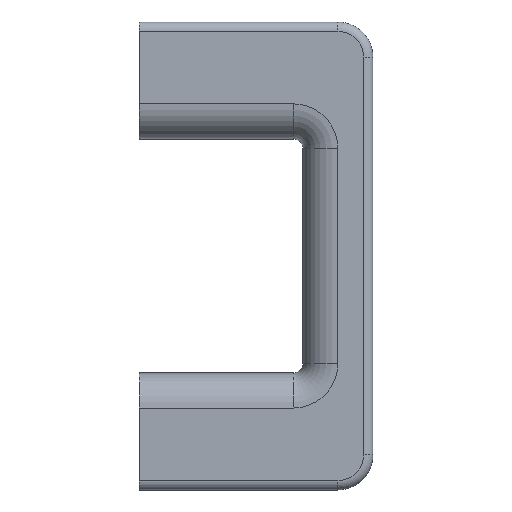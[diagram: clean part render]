
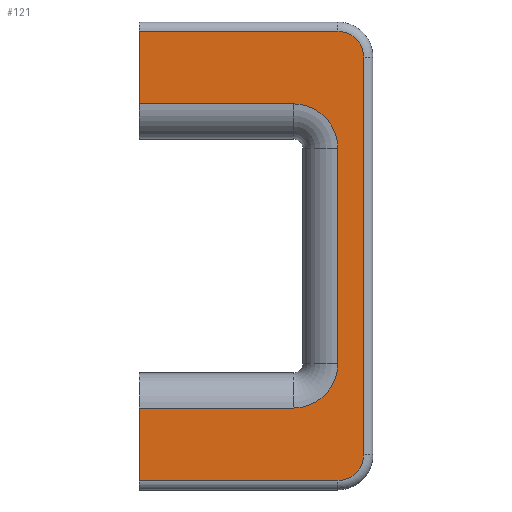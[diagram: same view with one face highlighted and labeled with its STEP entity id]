
A CAD part, top view. The second image highlights one B-rep face of the part: STEP entity #121.
In plain terms, the highlighted planar face has unit normal (0, 0, 1).
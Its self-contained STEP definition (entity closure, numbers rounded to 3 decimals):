
#121=ADVANCED_FACE('',(#500),#502,.T.);
#500=FACE_BOUND('',#501,.T.);
#501=EDGE_LOOP('',(#818,#819,#820,#821,#822,#823,#824,#825,#826,#827,#828,#829));
#502=PLANE('',#503);
#503=AXIS2_PLACEMENT_3D('',#504,#505,#506);
#504=CARTESIAN_POINT('',(0.,0.,6.));
#505=DIRECTION('',(0.,0.,1.));
#506=DIRECTION('',(1.,0.,0.));
#818=ORIENTED_EDGE('',*,*,#994,.T.);
#819=ORIENTED_EDGE('',*,*,#995,.F.);
#820=ORIENTED_EDGE('',*,*,#996,.T.);
#821=ORIENTED_EDGE('',*,*,#997,.F.);
#822=ORIENTED_EDGE('',*,*,#998,.T.);
#823=ORIENTED_EDGE('',*,*,#999,.T.);
#824=ORIENTED_EDGE('',*,*,#1000,.T.);
#825=ORIENTED_EDGE('',*,*,#1001,.F.);
#826=ORIENTED_EDGE('',*,*,#1002,.T.);
#827=ORIENTED_EDGE('',*,*,#1003,.F.);
#828=ORIENTED_EDGE('',*,*,#1004,.T.);
#829=ORIENTED_EDGE('',*,*,#1005,.T.);
#994=EDGE_CURVE('',#1118,#1119,#1120,.T.);
#995=EDGE_CURVE('',#1121,#1119,#1122,.F.);
#996=EDGE_CURVE('',#1121,#1123,#1124,.T.);
#997=EDGE_CURVE('',#1125,#1123,#1126,.F.);
#998=EDGE_CURVE('',#1125,#1127,#1128,.T.);
#999=EDGE_CURVE('',#1127,#1129,#1130,.T.);
#1000=EDGE_CURVE('',#1129,#1131,#1132,.T.);
#1001=EDGE_CURVE('',#1133,#1131,#1134,.F.);
#1002=EDGE_CURVE('',#1133,#1135,#1136,.T.);
#1003=EDGE_CURVE('',#1137,#1135,#1138,.F.);
#1004=EDGE_CURVE('',#1137,#1139,#1140,.T.);
#1005=EDGE_CURVE('',#1139,#1118,#1141,.T.);
#1118=VERTEX_POINT('',#1356);
#1119=VERTEX_POINT('',#1357);
#1120=LINE('',#1358,#1359);
#1121=VERTEX_POINT('',#1361);
#1122=CIRCLE('',#1362,7.6);
#1123=VERTEX_POINT('',#1366);
#1124=LINE('',#1367,#1368);
#1125=VERTEX_POINT('',#1370);
#1126=CIRCLE('',#1371,7.6);
#1127=VERTEX_POINT('',#1375);
#1128=LINE('',#1376,#1377);
#1129=VERTEX_POINT('',#1379);
#1130=LINE('',#1380,#1381);
#1131=VERTEX_POINT('',#1383);
#1132=LINE('',#1384,#1385);
#1133=VERTEX_POINT('',#1387);
#1134=CIRCLE('',#1388,4.4);
#1135=VERTEX_POINT('',#1392);
#1136=LINE('',#1393,#1394);
#1137=VERTEX_POINT('',#1396);
#1138=CIRCLE('',#1397,4.4);
#1139=VERTEX_POINT('',#1401);
#1140=LINE('',#1402,#1403);
#1141=LINE('',#1405,#1406);
#1356=CARTESIAN_POINT('',(-40.,26.,6.));
#1357=CARTESIAN_POINT('',(-13.6,26.,6.));
#1358=CARTESIAN_POINT('',(-40.,26.,6.));
#1359=VECTOR('',#1360,1.);
#1360=DIRECTION('',(1.,0.,0.));
#1361=CARTESIAN_POINT('',(-6.,18.4,6.));
#1362=AXIS2_PLACEMENT_3D('',#1363,#1364,#1365);
#1363=CARTESIAN_POINT('',(-13.6,18.4,6.));
#1364=DIRECTION('',(0.,0.,-1.));
#1365=DIRECTION('',(0.,1.,0.));
#1366=CARTESIAN_POINT('',(-6.,-18.4,6.));
#1367=CARTESIAN_POINT('',(-6.,18.4,6.));
#1368=VECTOR('',#1369,1.);
#1369=DIRECTION('',(0.,-1.,0.));
#1370=CARTESIAN_POINT('',(-13.6,-26.,6.));
#1371=AXIS2_PLACEMENT_3D('',#1372,#1373,#1374);
#1372=CARTESIAN_POINT('',(-13.6,-18.4,6.));
#1373=DIRECTION('',(0.,0.,-1.));
#1374=DIRECTION('',(1.,0.,0.));
#1375=CARTESIAN_POINT('',(-40.,-26.,6.));
#1376=CARTESIAN_POINT('',(-13.6,-26.,6.));
#1377=VECTOR('',#1378,1.);
#1378=DIRECTION('',(-1.,0.,0.));
#1379=CARTESIAN_POINT('',(-40.,-38.4,6.));
#1380=CARTESIAN_POINT('',(-40.,-26.,6.));
#1381=VECTOR('',#1382,1.);
#1382=DIRECTION('',(0.,-1.,0.));
#1383=CARTESIAN_POINT('',(-6.,-38.4,6.));
#1384=CARTESIAN_POINT('',(-40.,-38.4,6.));
#1385=VECTOR('',#1386,1.);
#1386=DIRECTION('',(1.,0.,0.));
#1387=CARTESIAN_POINT('',(-1.6,-34.,6.));
#1388=AXIS2_PLACEMENT_3D('',#1389,#1390,#1391);
#1389=CARTESIAN_POINT('',(-6.,-34.,6.));
#1390=DIRECTION('',(-0.,0.,1.));
#1391=DIRECTION('',(0.,-1.,0.));
#1392=CARTESIAN_POINT('',(-1.6,34.,6.));
#1393=CARTESIAN_POINT('',(-1.6,-34.,6.));
#1394=VECTOR('',#1395,1.);
#1395=DIRECTION('',(0.,1.,0.));
#1396=CARTESIAN_POINT('',(-6.,38.4,6.));
#1397=AXIS2_PLACEMENT_3D('',#1398,#1399,#1400);
#1398=CARTESIAN_POINT('',(-6.,34.,6.));
#1399=DIRECTION('',(0.,0.,1.));
#1400=DIRECTION('',(1.,0.,0.));
#1401=CARTESIAN_POINT('',(-40.,38.4,6.));
#1402=CARTESIAN_POINT('',(-6.,38.4,6.));
#1403=VECTOR('',#1404,1.);
#1404=DIRECTION('',(-1.,0.,0.));
#1405=CARTESIAN_POINT('',(-40.,38.4,6.));
#1406=VECTOR('',#1407,1.);
#1407=DIRECTION('',(0.,-1.,0.));
